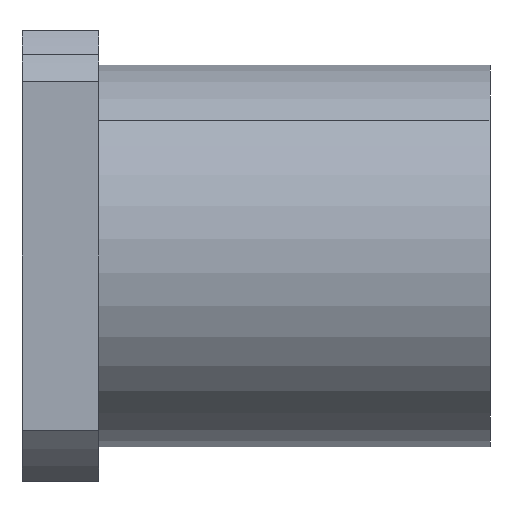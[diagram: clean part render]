
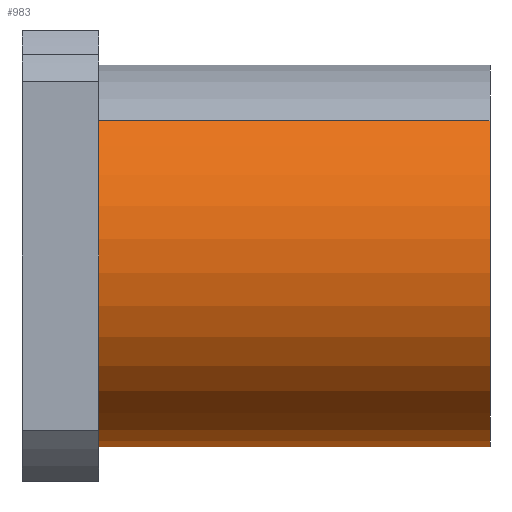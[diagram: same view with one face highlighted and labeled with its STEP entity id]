
A CAD part, front view. The second image highlights one B-rep face of the part: STEP entity #983.
In plain terms, the highlighted cylindrical face has radius 45 mm (diameter 90 mm), a partial arc.
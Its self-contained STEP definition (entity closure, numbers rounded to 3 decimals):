
#17 = CARTESIAN_POINT ( 'NONE',  ( 110., 0., 0. ) ) ;
#107 = DIRECTION ( 'NONE',  ( 0., 0.707, -0.707 ) ) ;
#161 = CARTESIAN_POINT ( 'NONE',  ( 110., -31.82, 31.82 ) ) ;
#184 = CARTESIAN_POINT ( 'NONE',  ( 110., -31.82, 31.82 ) ) ;
#194 = CARTESIAN_POINT ( 'NONE',  ( 18., 0., 0. ) ) ;
#215 = VECTOR ( 'NONE', #304, 1000. ) ;
#220 = CYLINDRICAL_SURFACE ( 'NONE', #835, 45. ) ;
#277 = AXIS2_PLACEMENT_3D ( 'NONE', #17, #373, #736 ) ;
#304 = DIRECTION ( 'NONE',  ( -1., 0., 0. ) ) ;
#342 = EDGE_LOOP ( 'NONE', ( #954, #1145, #722, #680 ) ) ;
#353 = EDGE_CURVE ( 'NONE', #540, #1044, #541, .T. ) ;
#373 = DIRECTION ( 'NONE',  ( 1., 0., 0. ) ) ;
#387 = EDGE_CURVE ( 'NONE', #1044, #710, #728, .T. ) ;
#411 = EDGE_CURVE ( 'NONE', #418, #710, #957, .T. ) ;
#418 = VERTEX_POINT ( 'NONE', #857 ) ;
#422 = CARTESIAN_POINT ( 'NONE',  ( 110., 0., 0. ) ) ;
#480 = AXIS2_PLACEMENT_3D ( 'NONE', #194, #550, #107 ) ;
#540 = VERTEX_POINT ( 'NONE', #161 ) ;
#541 = LINE ( 'NONE', #184, #671 ) ;
#550 = DIRECTION ( 'NONE',  ( 1., 0., 0. ) ) ;
#671 = VECTOR ( 'NONE', #735, 1000. ) ;
#675 = CARTESIAN_POINT ( 'NONE',  ( 18., -31.82, 31.82 ) ) ;
#680 = ORIENTED_EDGE ( 'NONE', *, *, #411, .F. ) ;
#710 = VERTEX_POINT ( 'NONE', #1111 ) ;
#722 = ORIENTED_EDGE ( 'NONE', *, *, #387, .T. ) ;
#728 = CIRCLE ( 'NONE', #480, 45. ) ;
#735 = DIRECTION ( 'NONE',  ( -1., 0., 0. ) ) ;
#736 = DIRECTION ( 'NONE',  ( 0., 0.707, -0.707 ) ) ;
#835 = AXIS2_PLACEMENT_3D ( 'NONE', #422, #1046, #1122 ) ;
#857 = CARTESIAN_POINT ( 'NONE',  ( 110., 31.82, -31.82 ) ) ;
#862 = EDGE_CURVE ( 'NONE', #540, #418, #1132, .T. ) ;
#938 = CARTESIAN_POINT ( 'NONE',  ( 110., 31.82, -31.82 ) ) ;
#954 = ORIENTED_EDGE ( 'NONE', *, *, #862, .F. ) ;
#957 = LINE ( 'NONE', #938, #215 ) ;
#958 = FACE_OUTER_BOUND ( 'NONE', #342, .T. ) ;
#983 = ADVANCED_FACE ( 'NONE', ( #958 ), #220, .T. ) ;
#1044 = VERTEX_POINT ( 'NONE', #675 ) ;
#1046 = DIRECTION ( 'NONE',  ( -1., 0., 0. ) ) ;
#1111 = CARTESIAN_POINT ( 'NONE',  ( 18., 31.82, -31.82 ) ) ;
#1122 = DIRECTION ( 'NONE',  ( 0., 0.707, -0.707 ) ) ;
#1132 = CIRCLE ( 'NONE', #277, 45. ) ;
#1145 = ORIENTED_EDGE ( 'NONE', *, *, #353, .T. ) ;
